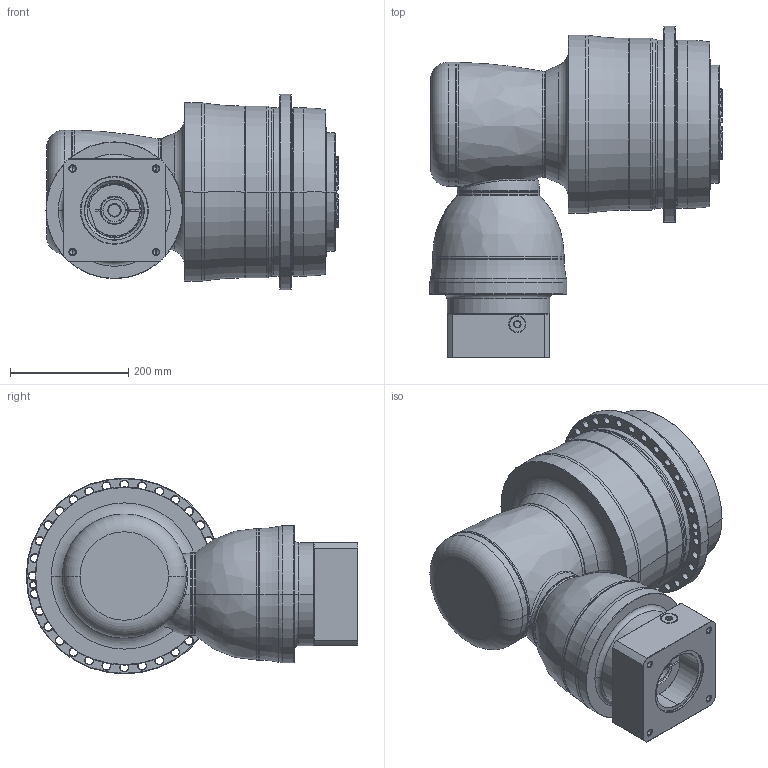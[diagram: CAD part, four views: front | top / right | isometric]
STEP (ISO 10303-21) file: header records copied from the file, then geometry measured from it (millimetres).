
FILE_DESCRIPTION((''),'2;1');
FILE_NAME('APCK285_4ST_38-P0409910201_ASM','2018-05-17T',('d01226'),(''),'PRO/ENGINEER BY PARAMETRIC TECHNOLOGY CORPORATION, 2008410','PRO/ENGINEER BY PARAMETRIC TECHNOLOGY CORPORATION, 2008410','');
FILE_SCHEMA(('CONFIG_CONTROL_DESIGN'));
Length unit declared in the file: millimetre
Products named in the file (13): P1008600002; P1832810001; P0278801003; P03598G0103; P1211800001; P1315600001; P1007601001; P1317610401; P0409910201; P0503900012; P0912554001; 21711422019; APCK285_4ST_38-P0409910201_ASM
Assembly tree (12 placements, depth 2):
  APCK285_4ST_38-P0409910201_ASM
    P1008600002
    P1832810001
    P0278801003
    P03598G0103
    P1211800001
    P1315600001
    P1007601001
    P1317610401
    P0409910201
    P0503900012
    P0912554001
    21711422019
Bounding box: 495.1 x 561.5 x 332 mm (x, y, z)
Volume: 32426438.7 mm3; surface area: 1743765.9 mm2
Topology: 13 solids, 25 shells, 853 faces, 2050 edges, 1254 vertices
Faces by surface type: cone 284, cylinder 241, plane 154, torus 139, bspline 33, sphere 2
Entity records: 32195 total; most frequent: CARTESIAN_POINT 11825, DIRECTION 4543, ORIENTED_EDGE 4022, EDGE_CURVE 2036, AXIS2_PLACEMENT_3D 2004, VERTEX_POINT 1254, CIRCLE 1147, EDGE_LOOP 982
